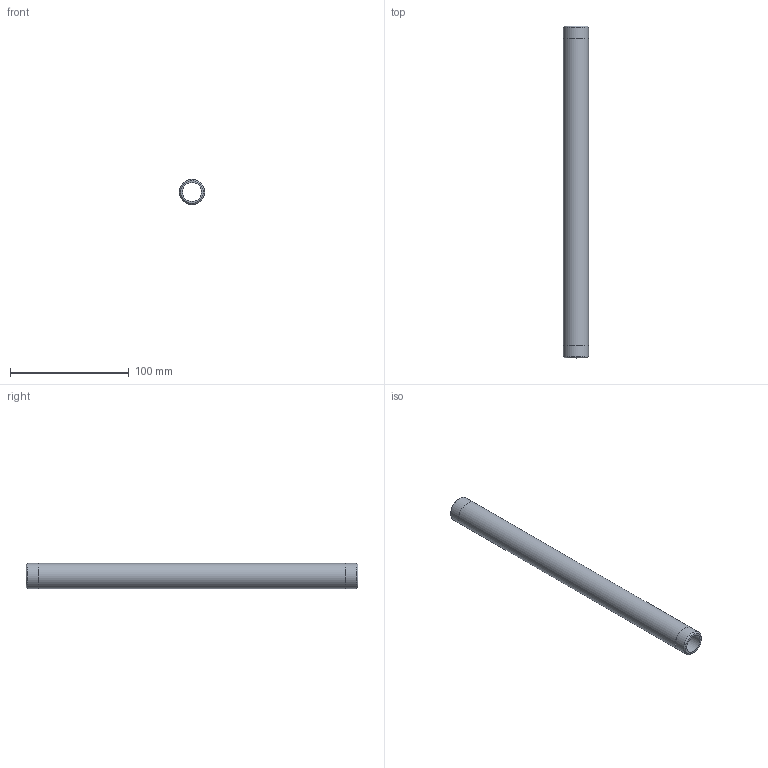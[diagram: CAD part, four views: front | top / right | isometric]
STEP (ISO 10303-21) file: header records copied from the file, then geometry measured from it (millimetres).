
FILE_DESCRIPTION(/* description */ (''),/* implementation_level */ '2;1');
FILE_NAME(/* name */ 'C:/Users/drich/Desktop/BPN12-11 v1.step',/* time_stamp */ '2020-01-03T14:34:42-06:00',/* author */ (''),/* organization */ (''),/* preprocessor_version */ 'ST-DEVELOPER v18',/* originating_system */ 'Autodesk Translation Framework v8.12.0.6',/* authorisation */ '');
FILE_SCHEMA (('AUTOMOTIVE_DESIGN { 1 0 10303 214 3 1 1 }'));
Length unit declared in the file: inch
Products named in the file (1): BPN12-11
Bounding box: 21.34 x 279.4 x 21.34 mm (x, y, z)
Volume: 45001.4 mm3; surface area: 32822.1 mm2
Topology: 1 solids, 1 shells, 10 faces, 24 edges, 18 vertices
Faces by surface type: cylinder 4, plane 4, cone 2
Full cylindrical faces by diameter (mm): 15.799 x1, 21.285 x2, 21.336 x1
Entity records: 360 total; most frequent: DIRECTION 64, CARTESIAN_POINT 53, ORIENTED_EDGE 48, AXIS2_PLACEMENT_3D 29, EDGE_CURVE 24, CIRCLE 18, VERTEX_POINT 18, EDGE_LOOP 14
